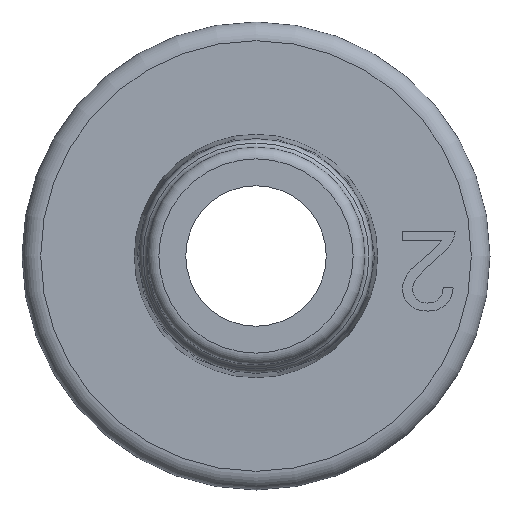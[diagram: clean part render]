
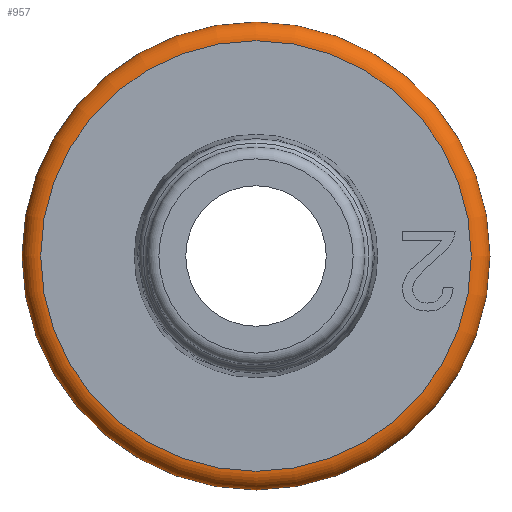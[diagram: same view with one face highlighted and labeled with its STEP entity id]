
A CAD part, left-side view. The second image highlights one B-rep face of the part: STEP entity #957.
In plain terms, the highlighted toroidal (fillet/blend) face has major radius 11.684 mm and minor radius 1.016 mm.
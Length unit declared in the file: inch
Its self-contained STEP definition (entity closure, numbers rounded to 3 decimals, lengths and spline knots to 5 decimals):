
#244=FACE_OUTER_BOUND('',#302,.T.);
#302=EDGE_LOOP('',(#869,#870,#871,#872,#873));
#352=CIRCLE('',#1044,0.46);
#353=CIRCLE('',#1046,0.04);
#354=CIRCLE('',#1047,0.5);
#355=CIRCLE('',#1048,0.5);
#451=VERTEX_POINT('',#2227);
#452=VERTEX_POINT('',#2230);
#453=VERTEX_POINT('',#2232);
#592=EDGE_CURVE('',#451,#451,#352,.T.);
#593=EDGE_CURVE('',#451,#452,#353,.T.);
#594=EDGE_CURVE('',#453,#452,#354,.T.);
#595=EDGE_CURVE('',#452,#453,#355,.T.);
#869=ORIENTED_EDGE('',*,*,#592,.T.);
#870=ORIENTED_EDGE('',*,*,#593,.T.);
#871=ORIENTED_EDGE('',*,*,#594,.F.);
#872=ORIENTED_EDGE('',*,*,#595,.F.);
#873=ORIENTED_EDGE('',*,*,#593,.F.);
#906=TOROIDAL_SURFACE('',#1045,0.46,0.04);
#957=ADVANCED_FACE('',(#244),#906,.T.);
#1044=AXIS2_PLACEMENT_3D('',#2228,#1238,#1239);
#1045=AXIS2_PLACEMENT_3D('',#2229,#1240,#1241);
#1046=AXIS2_PLACEMENT_3D('',#2231,#1242,#1243);
#1047=AXIS2_PLACEMENT_3D('',#2233,#1244,#1245);
#1048=AXIS2_PLACEMENT_3D('',#2234,#1246,#1247);
#1238=DIRECTION('center_axis',(1.,0.,0.));
#1239=DIRECTION('ref_axis',(0.,0.,1.));
#1240=DIRECTION('center_axis',(-1.,0.,0.));
#1241=DIRECTION('ref_axis',(0.,0.,1.));
#1242=DIRECTION('center_axis',(0.,-1.,0.));
#1243=DIRECTION('ref_axis',(0.,0.,-1.));
#1244=DIRECTION('center_axis',(1.,0.,0.));
#1245=DIRECTION('ref_axis',(0.,-1.,0.));
#1246=DIRECTION('center_axis',(1.,0.,0.));
#1247=DIRECTION('ref_axis',(0.,-1.,0.));
#2227=CARTESIAN_POINT('',(-0.01,0.,-0.46));
#2228=CARTESIAN_POINT('Origin',(-0.01,0.,0.));
#2229=CARTESIAN_POINT('Origin',(0.03,0.,0.));
#2230=CARTESIAN_POINT('',(0.03,0.,-0.5));
#2231=CARTESIAN_POINT('Origin',(0.03,0.,-0.46));
#2232=CARTESIAN_POINT('',(0.03,-0.5,0.));
#2233=CARTESIAN_POINT('Origin',(0.03,0.,0.));
#2234=CARTESIAN_POINT('Origin',(0.03,0.,0.));
